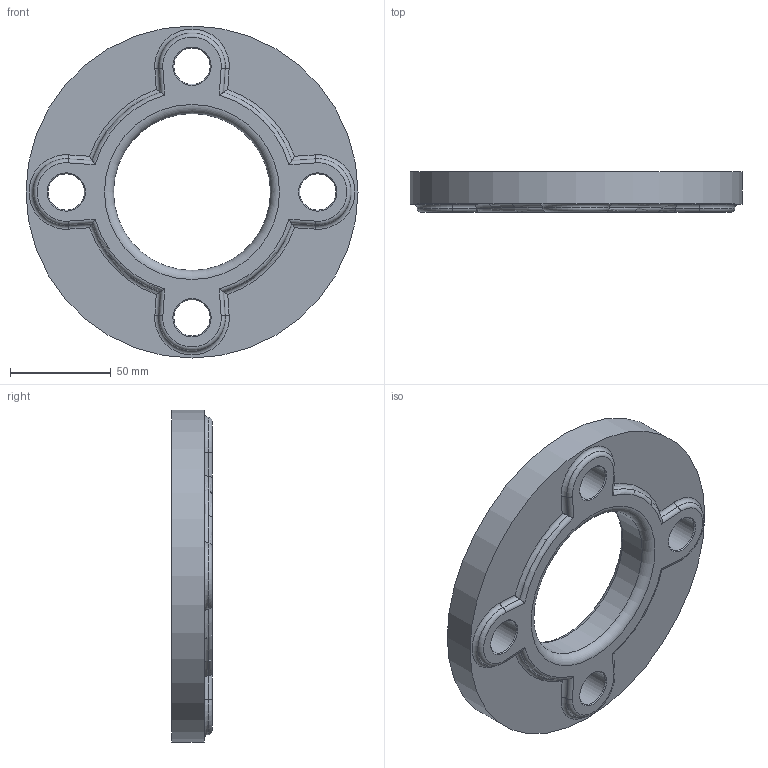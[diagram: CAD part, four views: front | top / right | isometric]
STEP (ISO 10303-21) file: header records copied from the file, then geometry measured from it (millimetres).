
FILE_DESCRIPTION(/* description */ ('Unknown'),/* implementation_level */ '2;1');
FILE_NAME(/* name */ 'FA063B',/* time_stamp */ '2022-07-19T12:02:59+02:00',/* author */ ('Unknown'),/* organization */ ('Unknown'),/* preprocessor_version */ 'ST-DEVELOPER v18.102',/* originating_system */ 'Solid Edge',/* authorisation */ 'Unknown');
FILE_SCHEMA (('AUTOMOTIVE_DESIGN {1 0 10303 214 3 1 1}'));
Length unit declared in the file: millimetre
Products named in the file (1): FA063B
Bounding box: 165 x 20 x 165 mm (x, y, z)
Volume: 271497.2 mm3; surface area: 49253.7 mm2
Topology: 1 solids, 1 shells, 51 faces, 130 edges, 82 vertices
Faces by surface type: cylinder 22, torus 18, cone 8, plane 3
Full cylindrical faces by diameter (mm): 18 x4, 78 x1, 165 x1
Entity records: 1448 total; most frequent: CARTESIAN_POINT 288, DIRECTION 252, ORIENTED_EDGE 204, AXIS2_PLACEMENT_3D 114, EDGE_CURVE 102, EDGE_LOOP 78, FACE_BOUND 78, VERTEX_POINT 70
